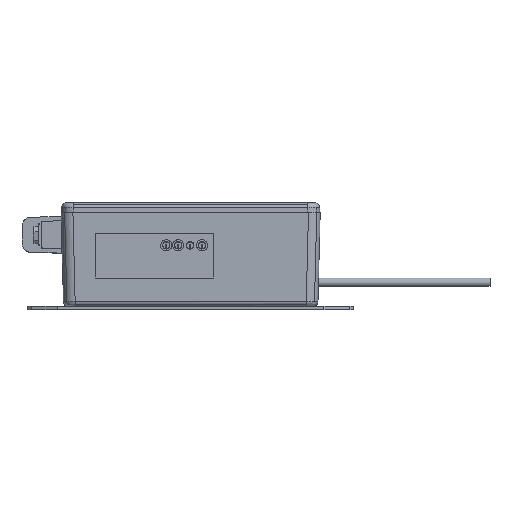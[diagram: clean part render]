
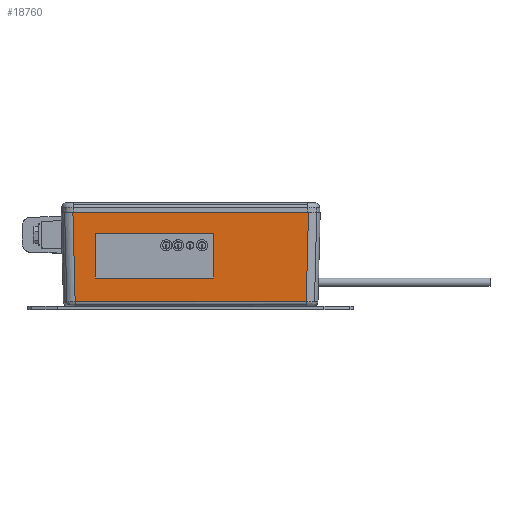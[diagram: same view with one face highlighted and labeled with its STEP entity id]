
A CAD part, top view. The second image highlights one B-rep face of the part: STEP entity #18760.
In plain terms, the highlighted planar face has unit normal (0, -0.025, 1) as drawn and (0, -1, -0.025) by its records, which use the part's own axes.
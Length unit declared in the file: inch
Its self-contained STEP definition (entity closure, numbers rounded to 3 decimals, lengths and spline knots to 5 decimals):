
#258 = LINE ( 'NONE', #38877, #24662 ) ;
#329 = LINE ( 'NONE', #32975, #35118 ) ;
#878 = ORIENTED_EDGE ( 'NONE', *, *, #22001, .F. ) ;
#1229 = DIRECTION ( 'NONE',  ( 0., -1., -0.025 ) ) ;
#2233 = VERTEX_POINT ( 'NONE', #24846 ) ;
#2389 = ORIENTED_EDGE ( 'NONE', *, *, #7183, .F. ) ;
#2569 = CARTESIAN_POINT ( 'NONE',  ( 1.94101, -1.58465, -1.49803 ) ) ;
#2670 = EDGE_CURVE ( 'NONE', #39166, #2233, #258, .T. ) ;
#2793 = AXIS2_PLACEMENT_3D ( 'NONE', #18640, #40918, #21856 ) ;
#3309 = FACE_BOUND ( 'NONE', #15832, .T. ) ;
#4678 = ORIENTED_EDGE ( 'NONE', *, *, #38119, .T. ) ;
#4944 = DIRECTION ( 'NONE',  ( 0., -1., -0.025 ) ) ;
#5844 = VERTEX_POINT ( 'NONE', #14967 ) ;
#6367 = EDGE_CURVE ( 'NONE', #26297, #32972, #11463, .T. ) ;
#6492 = VERTEX_POINT ( 'NONE', #34065 ) ;
#7183 = EDGE_CURVE ( 'NONE', #5844, #13146, #39292, .T. ) ;
#7393 = DIRECTION ( 'NONE',  ( 0., -1., -0.025 ) ) ;
#7628 = CARTESIAN_POINT ( 'NONE',  ( 0.1898, -1.60822, -0.55383 ) ) ;
#7909 = DIRECTION ( 'NONE',  ( -0.025, 0.025, -0.999 ) ) ;
#8687 = EDGE_LOOP ( 'NONE', ( #23250, #18636 ) ) ;
#10050 = ORIENTED_EDGE ( 'NONE', *, *, #21940, .F. ) ;
#10814 = DIRECTION ( 'NONE',  ( 0., 0.025, -1. ) ) ;
#10985 = VERTEX_POINT ( 'NONE', #40896 ) ;
#11463 = CIRCLE ( 'NONE', #13666, 0.0645 ) ;
#11488 = CARTESIAN_POINT ( 'NONE',  ( -0.4102, -1.60983, -0.48935 ) ) ;
#11763 = FACE_BOUND ( 'NONE', #39872, .T. ) ;
#12675 = CARTESIAN_POINT ( 'NONE',  ( -0.2102, -1.60822, -0.55383 ) ) ;
#13146 = VERTEX_POINT ( 'NONE', #17711 ) ;
#13309 = EDGE_LOOP ( 'NONE', ( #24851, #10050 ) ) ;
#13489 = EDGE_CURVE ( 'NONE', #33605, #30859, #16477, .T. ) ;
#13666 = AXIS2_PLACEMENT_3D ( 'NONE', #23964, #4944, #27152 ) ;
#13770 = DIRECTION ( 'NONE',  ( 0., 0.025, -1. ) ) ;
#13984 = DIRECTION ( 'NONE',  ( 0., -1., -0.025 ) ) ;
#14904 = VECTOR ( 'NONE', #34764, 39.37008 ) ;
#14967 = CARTESIAN_POINT ( 'NONE',  ( 0.1898, -1.60661, -0.61831 ) ) ;
#15211 = EDGE_CURVE ( 'NONE', #2233, #40508, #23354, .T. ) ;
#15493 = AXIS2_PLACEMENT_3D ( 'NONE', #20322, #1229, #23471 ) ;
#15737 = CARTESIAN_POINT ( 'NONE',  ( -1.97803, -1.62166, -0.01531 ) ) ;
#15798 = CIRCLE ( 'NONE', #30063, 0.0645 ) ;
#15832 = EDGE_LOOP ( 'NONE', ( #24385, #29002 ) ) ;
#15891 = DIRECTION ( 'NONE',  ( 0., 0.025, -1. ) ) ;
#16321 = AXIS2_PLACEMENT_3D ( 'NONE', #18546, #40831, #21765 ) ;
#16477 = CIRCLE ( 'NONE', #16321, 0.0645 ) ;
#16648 = EDGE_CURVE ( 'NONE', #39382, #10985, #22775, .T. ) ;
#16759 = CIRCLE ( 'NONE', #27585, 0.0645 ) ;
#16832 = EDGE_CURVE ( 'NONE', #32972, #26297, #16759, .T. ) ;
#17162 = DIRECTION ( 'NONE',  ( -1., 0., 0. ) ) ;
#17591 = AXIS2_PLACEMENT_3D ( 'NONE', #7628, #29839, #10814 ) ;
#17711 = CARTESIAN_POINT ( 'NONE',  ( 0.1898, -1.60983, -0.48935 ) ) ;
#18219 = CIRCLE ( 'NONE', #15493, 0.0645 ) ;
#18546 = CARTESIAN_POINT ( 'NONE',  ( -0.4102, -1.60822, -0.55383 ) ) ;
#18636 = ORIENTED_EDGE ( 'NONE', *, *, #16648, .F. ) ;
#18640 = CARTESIAN_POINT ( 'NONE',  ( 0.1898, -1.60822, -0.55383 ) ) ;
#18760 = ADVANCED_FACE ( 'NONE', ( #27679, #36109, #3309, #11763, #19249 ), #26409, .T. ) ;
#19249 = FACE_OUTER_BOUND ( 'NONE', #30273, .T. ) ;
#20046 = ORIENTED_EDGE ( 'NONE', *, *, #2670, .F. ) ;
#20063 = CARTESIAN_POINT ( 'NONE',  ( -2.1752, -1.62205, 0. ) ) ;
#20277 = EDGE_CURVE ( 'NONE', #10985, #39382, #15798, .T. ) ;
#20322 = CARTESIAN_POINT ( 'NONE',  ( -0.4102, -1.60822, -0.55383 ) ) ;
#21765 = DIRECTION ( 'NONE',  ( 0., 0.025, -1. ) ) ;
#21856 = DIRECTION ( 'NONE',  ( 0., 0.025, -1. ) ) ;
#21940 = EDGE_CURVE ( 'NONE', #30859, #33605, #18219, .T. ) ;
#21945 = EDGE_CURVE ( 'NONE', #13146, #5844, #31105, .T. ) ;
#22001 = EDGE_CURVE ( 'NONE', #6492, #39166, #32079, .T. ) ;
#22187 = CARTESIAN_POINT ( 'NONE',  ( -0.4102, -1.60661, -0.61831 ) ) ;
#22775 = CIRCLE ( 'NONE', #34752, 0.0645 ) ;
#23250 = ORIENTED_EDGE ( 'NONE', *, *, #20277, .F. ) ;
#23354 = LINE ( 'NONE', #15737, #14904 ) ;
#23471 = DIRECTION ( 'NONE',  ( 0., 0.025, -1. ) ) ;
#23964 = CARTESIAN_POINT ( 'NONE',  ( -0.0102, -1.60822, -0.55383 ) ) ;
#24385 = ORIENTED_EDGE ( 'NONE', *, *, #6367, .F. ) ;
#24662 = VECTOR ( 'NONE', #38424, 39.37008 ) ;
#24846 = CARTESIAN_POINT ( 'NONE',  ( -1.94101, -1.58465, -1.49803 ) ) ;
#24851 = ORIENTED_EDGE ( 'NONE', *, *, #13489, .F. ) ;
#26229 = ORIENTED_EDGE ( 'NONE', *, *, #15211, .F. ) ;
#26297 = VERTEX_POINT ( 'NONE', #32652 ) ;
#26409 = PLANE ( 'NONE',  #27091 ) ;
#26420 = CARTESIAN_POINT ( 'NONE',  ( -0.0102, -1.60822, -0.55383 ) ) ;
#26921 = CARTESIAN_POINT ( 'NONE',  ( 1.97718, -1.62082, -0.04933 ) ) ;
#27091 = AXIS2_PLACEMENT_3D ( 'NONE', #20063, #32787, #13770 ) ;
#27152 = DIRECTION ( 'NONE',  ( 0., 0.025, -1. ) ) ;
#27585 = AXIS2_PLACEMENT_3D ( 'NONE', #26420, #7393, #29603 ) ;
#27679 = FACE_BOUND ( 'NONE', #13309, .T. ) ;
#29002 = ORIENTED_EDGE ( 'NONE', *, *, #16832, .F. ) ;
#29603 = DIRECTION ( 'NONE',  ( 0., 0.025, -1. ) ) ;
#29839 = DIRECTION ( 'NONE',  ( 0., -1., -0.025 ) ) ;
#30063 = AXIS2_PLACEMENT_3D ( 'NONE', #33005, #13984, #36217 ) ;
#30273 = EDGE_LOOP ( 'NONE', ( #878, #4678, #26229, #20046 ) ) ;
#30859 = VERTEX_POINT ( 'NONE', #11488 ) ;
#31105 = CIRCLE ( 'NONE', #17591, 0.0645 ) ;
#32079 = LINE ( 'NONE', #26921, #37593 ) ;
#32652 = CARTESIAN_POINT ( 'NONE',  ( -0.0102, -1.60661, -0.61831 ) ) ;
#32787 = DIRECTION ( 'NONE',  ( 0., -1., -0.025 ) ) ;
#32868 = CARTESIAN_POINT ( 'NONE',  ( -1.97841, -1.62205, 0. ) ) ;
#32972 = VERTEX_POINT ( 'NONE', #37655 ) ;
#32975 = CARTESIAN_POINT ( 'NONE',  ( 2.1752, -1.62205, 0. ) ) ;
#33005 = CARTESIAN_POINT ( 'NONE',  ( -0.2102, -1.60822, -0.55383 ) ) ;
#33605 = VERTEX_POINT ( 'NONE', #22187 ) ;
#34065 = CARTESIAN_POINT ( 'NONE',  ( 1.97841, -1.62205, 0. ) ) ;
#34752 = AXIS2_PLACEMENT_3D ( 'NONE', #12675, #34910, #15891 ) ;
#34764 = DIRECTION ( 'NONE',  ( -0.025, -0.025, 0.999 ) ) ;
#34910 = DIRECTION ( 'NONE',  ( 0., -1., -0.025 ) ) ;
#35118 = VECTOR ( 'NONE', #17162, 39.37008 ) ;
#35461 = CARTESIAN_POINT ( 'NONE',  ( -0.2102, -1.60983, -0.48935 ) ) ;
#36109 = FACE_BOUND ( 'NONE', #8687, .T. ) ;
#36217 = DIRECTION ( 'NONE',  ( 0., 0.025, -1. ) ) ;
#36652 = ORIENTED_EDGE ( 'NONE', *, *, #21945, .F. ) ;
#37593 = VECTOR ( 'NONE', #7909, 39.37008 ) ;
#37655 = CARTESIAN_POINT ( 'NONE',  ( -0.0102, -1.60983, -0.48935 ) ) ;
#38119 = EDGE_CURVE ( 'NONE', #6492, #40508, #329, .T. ) ;
#38424 = DIRECTION ( 'NONE',  ( -1., 0., 0. ) ) ;
#38877 = CARTESIAN_POINT ( 'NONE',  ( -1.0876, -1.58465, -1.49803 ) ) ;
#39166 = VERTEX_POINT ( 'NONE', #2569 ) ;
#39292 = CIRCLE ( 'NONE', #2793, 0.0645 ) ;
#39382 = VERTEX_POINT ( 'NONE', #35461 ) ;
#39872 = EDGE_LOOP ( 'NONE', ( #2389, #36652 ) ) ;
#40508 = VERTEX_POINT ( 'NONE', #32868 ) ;
#40831 = DIRECTION ( 'NONE',  ( 0., -1., -0.025 ) ) ;
#40896 = CARTESIAN_POINT ( 'NONE',  ( -0.2102, -1.60661, -0.61831 ) ) ;
#40918 = DIRECTION ( 'NONE',  ( 0., -1., -0.025 ) ) ;
